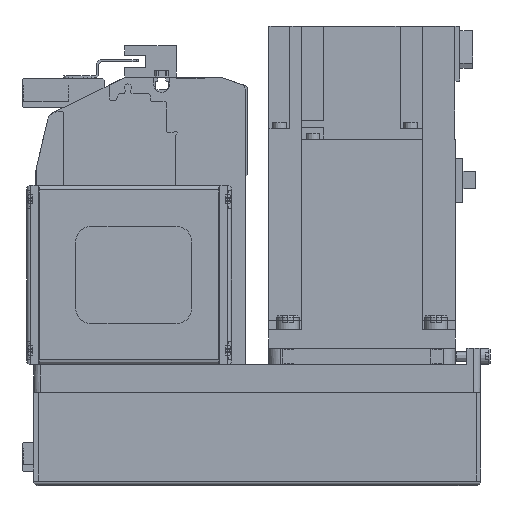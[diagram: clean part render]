
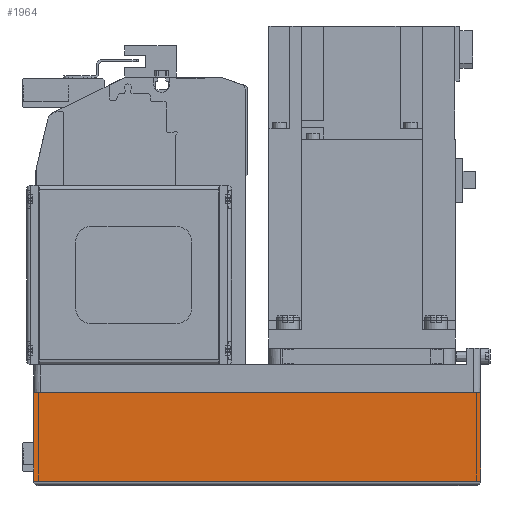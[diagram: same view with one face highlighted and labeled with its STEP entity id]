
A CAD part, left-side view. The second image highlights one B-rep face of the part: STEP entity #1964.
In plain terms, the highlighted planar face has unit normal (-1, 0, 0) as drawn and (0, 1, 0) by its records, which use the part's own axes.
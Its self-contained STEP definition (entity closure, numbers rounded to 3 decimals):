
#1964 = ADVANCED_FACE( '', ( #4772 ), #4773, .T. );
#4772 = FACE_OUTER_BOUND( '', #8638, .T. );
#4773 = PLANE( '', #8639 );
#8638 = EDGE_LOOP( '', ( #14195, #14196, #14197, #14198 ) );
#8639 = AXIS2_PLACEMENT_3D( '', #14199, #14200, #14201 );
#14195 = ORIENTED_EDGE( '', *, *, #22134, .F. );
#14196 = ORIENTED_EDGE( '', *, *, #23120, .F. );
#14197 = ORIENTED_EDGE( '', *, *, #23121, .T. );
#14198 = ORIENTED_EDGE( '', *, *, #23122, .T. );
#14199 = CARTESIAN_POINT( '', ( -192., 40., -50. ) );
#14200 = DIRECTION( '', ( 0., 1., 0. ) );
#14201 = DIRECTION( '', ( 0., 0., 1. ) );
#22134 = EDGE_CURVE( '', #26532, #26534, #26535, .T. );
#23120 = EDGE_CURVE( '', #27880, #26532, #28163, .T. );
#23121 = EDGE_CURVE( '', #27880, #27876, #28164, .T. );
#23122 = EDGE_CURVE( '', #27876, #26534, #28165, .T. );
#26532 = VERTEX_POINT( '', #33326 );
#26534 = VERTEX_POINT( '', #33329 );
#26535 = LINE( '', #33330, #33331 );
#27876 = VERTEX_POINT( '', #35644 );
#27880 = VERTEX_POINT( '', #35650 );
#28163 = LINE( '', #36035, #36036 );
#28164 = LINE( '', #36037, #36038 );
#28165 = LINE( '', #36039, #36040 );
#33326 = CARTESIAN_POINT( '', ( 0., 40., -50. ) );
#33329 = CARTESIAN_POINT( '', ( 0., 40., -12.1 ) );
#33330 = CARTESIAN_POINT( '', ( 0., 40., -50. ) );
#33331 = VECTOR( '', #41307, 1000. );
#35644 = CARTESIAN_POINT( '', ( -192., 40., -12.1 ) );
#35650 = CARTESIAN_POINT( '', ( -192., 40., -50. ) );
#36035 = CARTESIAN_POINT( '', ( -192., 40., -50. ) );
#36036 = VECTOR( '', #42571, 1000. );
#36037 = CARTESIAN_POINT( '', ( -192., 40., -50. ) );
#36038 = VECTOR( '', #42572, 1000. );
#36039 = CARTESIAN_POINT( '', ( -192., 40., -12.1 ) );
#36040 = VECTOR( '', #42573, 1000. );
#41307 = DIRECTION( '', ( 0., 0., 1. ) );
#42571 = DIRECTION( '', ( 1., 0., 0. ) );
#42572 = DIRECTION( '', ( 0., 0., 1. ) );
#42573 = DIRECTION( '', ( 1., 0., 0. ) );
